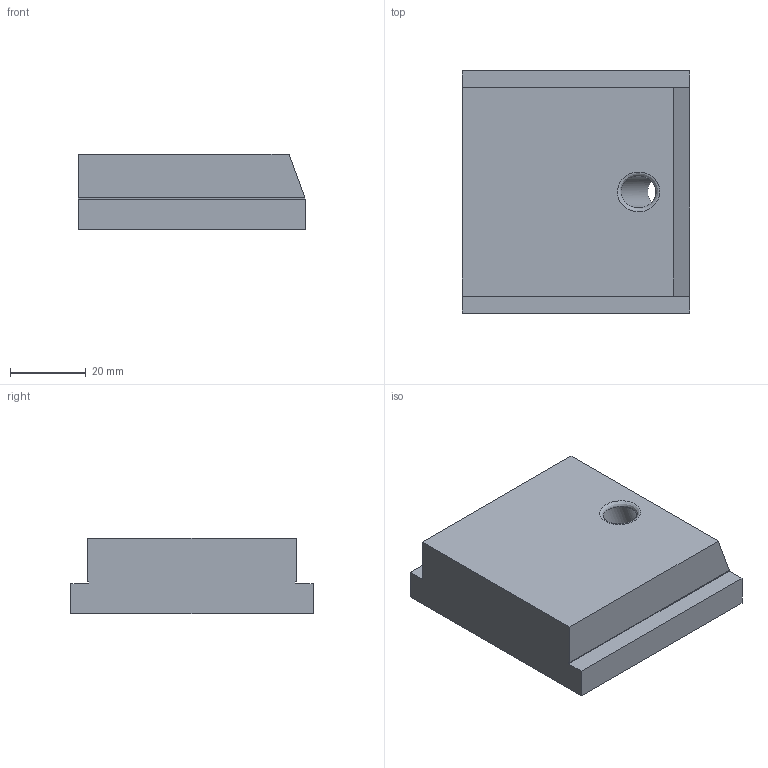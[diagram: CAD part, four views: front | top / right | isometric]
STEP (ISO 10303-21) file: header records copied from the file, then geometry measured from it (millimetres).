
FILE_DESCRIPTION (( 'STEP AP214' ), '1' );
FILE_NAME ('Schieber_-_H20 B55 L60.step', '2024-01-15T11:27:46', ( '' ), ( '' ), 'SwSTEP 2.0', 'SolidWorks 2020', '' );
FILE_SCHEMA (( 'AUTOMOTIVE_DESIGN' ));
Length unit declared in the file: millimetre
Products named in the file (1): Schieber_-_H20 B55 L60
Bounding box: 60 x 64 x 20 mm (x, y, z)
Volume: 67645.4 mm3; surface area: 12678.6 mm2
Topology: 1 solids, 1 shells, 210 faces, 561 edges, 373 vertices
Faces by surface type: plane 107, bspline 102, cylinder 1
Full cylindrical faces by diameter (mm): 8.5 x1
Entity records: 11913 total; most frequent: CARTESIAN_POINT 7347, ORIENTED_EDGE 1118, DIRECTION 572, EDGE_CURVE 559, VERTEX_POINT 373, VECTOR 354, LINE 354, EDGE_LOOP 234
